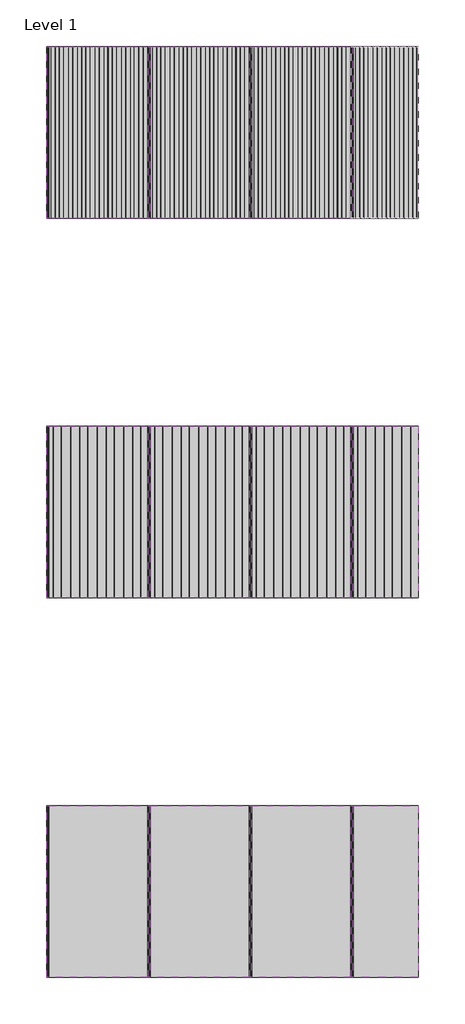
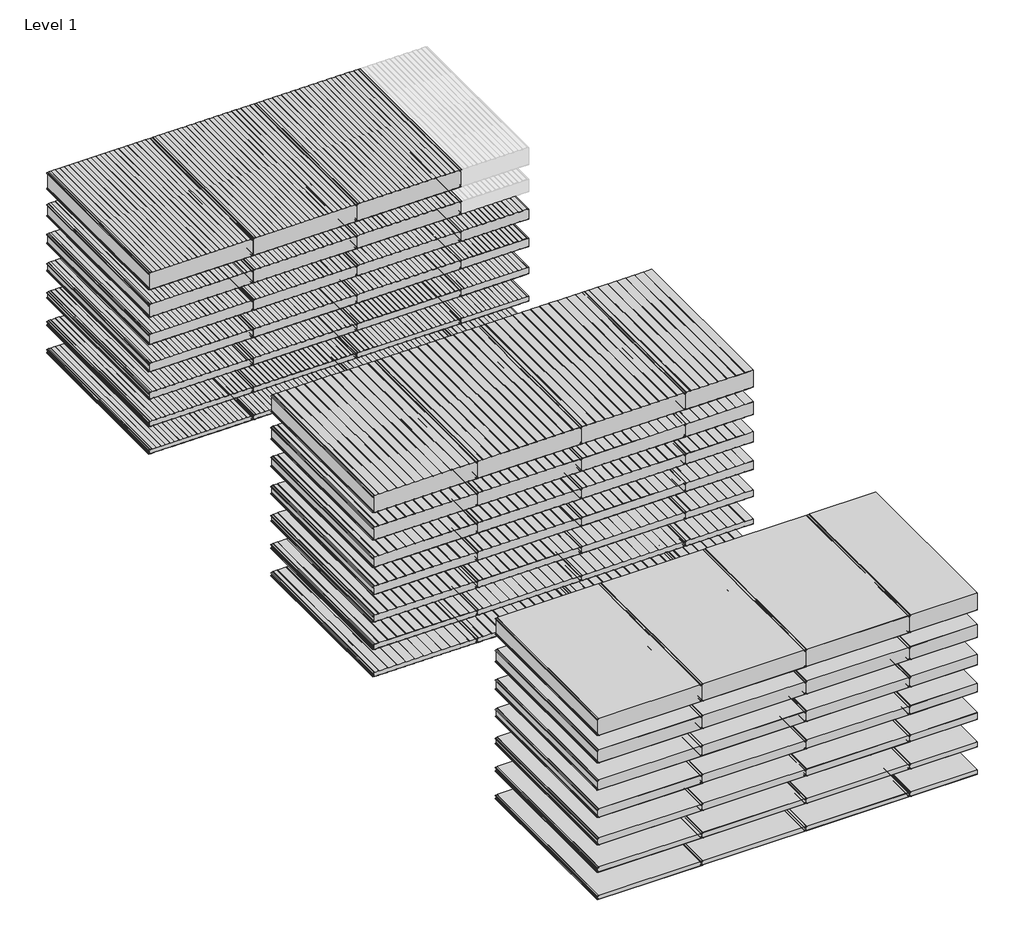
# One storey, part 1 of 4: 82 plates.
"""IFC4 building model written with IfcOpenShell, lengths in millimetres."""

from ifc_helpers import new_model, si_unit, origin, place, context, project, spatial, transform, mapped, element, save
from components import pm1_curtain_panel_standard_profile_92d2c23e, pm1_curtain_panel_standard_profile_dad806f1, pm1_curtain_panel_standard_profile_199faaa9, pm1_curtain_panel_standard_profile_ec20e6b9, pm1_curtain_panel_standard_profile_df60e3fd, pm1_curtain_panel_standard_profile_6e56c0e7, pm1_curtain_panel_standard_profile_73e4d42a, pm1_curtain_panel_standard_profile_d2d6d263, pm1_curtain_panel_standard_profile_0b0c5db0, pm1_curtain_panel_standard_profile_93d1fdce, pm1_curtain_panel_standard_profile_77d0ed2d, pm1_curtain_panel_standard_profile_0c0490de, pm1_curtain_panel_standard_profile_6c952c13, pm1_curtain_panel_standard_profile_5ba5febf, pm1_curtain_panel_standard_profile_4f92d4e1, pm1_curtain_panel_standard_profile_263c61b6, pm1_curtain_panel_standard_profile_bfe30813, pm1_curtain_panel_standard_profile_6d1bee30, pm1_curtain_panel_standard_profile_b1a9f643, pm1_curtain_panel_flat_profile_4c73c2bf, pm1_curtain_panel_flat_profile_43c2f4df, pm1_curtain_panel_flat_profile_60ec96a5, pm1_curtain_panel_flat_profile_449bc577, pm1_curtain_panel_flat_profile_286b1131, pm1_curtain_panel_flat_profile_61f180d3, pm1_curtain_panel_flat_profile_b2dca893, pm1_curtain_panel_flat_profile_1d2014c8, pm1_curtain_panel_flat_profile_ca693aed, pm1_curtain_panel_flat_profile_87bdf2c1, pm1_curtain_panel_flat_profile_b736cf1f, pm1_curtain_panel_flat_profile_28417d67, pm1_curtain_panel_flat_profile_6e2cb82f, pm1_curtain_panel_flat_profile_e4c4468b, pm1_curtain_panel_micro_ribbed_profile_c0fbc9e0, pm1_curtain_panel_micro_ribbed_profile_24b0a13b, pm1_curtain_panel_micro_ribbed_profile_d84f3b6b, pm1_curtain_panel_micro_ribbed_profile_1f1996e2, pm1_curtain_panel_micro_ribbed_profile_37213962, pm1_curtain_panel_micro_ribbed_profile_cd397411, pm1_curtain_panel_micro_ribbed_profile_82cb0394, pm1_curtain_panel_micro_ribbed_profile_46b46948, pm1_curtain_panel_micro_ribbed_profile_8fb5820e, pm1_curtain_panel_micro_ribbed_profile_215b7ad8, pm1_curtain_panel_micro_ribbed_profile_cca0c929, pm1_curtain_panel_micro_ribbed_profile_ab274a87, pm1_curtain_panel_micro_ribbed_profile_490ffd24, pm1_curtain_panel_micro_ribbed_profile_86621088, pm1_curtain_panel_micro_ribbed_profile_fcd02327, pm1_curtain_panel_micro_ribbed_profile_9c3616a6, pm1_curtain_panel_micro_ribbed_profile_b6f5b8fb, pm1_curtain_panel_micro_ribbed_profile_d67f2b87, pm1_curtain_panel_micro_ribbed_profile_3ec6e447, pm1_curtain_panel_micro_ribbed_profile_b6d19df9, pm1_curtain_panel_micro_ribbed_profile_b77677c2

model = new_model("IFC4")

# Units and contexts
model_context = context("Model", 3, world=origin())
ifc_project = project(units=[si_unit("LENGTHUNIT", "METRE", prefix="MILLI")], contexts=[model_context])

# Site, building, storey
site = spatial("IfcSite", under=ifc_project)
building = spatial("IfcBuilding", under=site)
storey = spatial("IfcBuildingStorey", under=building, Name="Level 1", Elevation=0.0)

# Plates
placement = place(None, origin())
pm1_curtain_panel_standard_profile_shape = pm1_curtain_panel_standard_profile_92d2c23e(model_context)
pm1_curtain_panel_standard_profile_2_shape = pm1_curtain_panel_standard_profile_dad806f1(model_context)
element("IfcPlate", 1, ObjectType="PM1_Curtain-Panel_ Standard-profile : ACH_PM1_Acoustic-Sectioning-Panel_50M", at=placement, inside=storey, context=model_context, shape_type="MappedRepresentation", body=[
    mapped(pm1_curtain_panel_standard_profile_shape, transform((-20457.9364012, -419.7144508, 0.0), x_axis=(1.0, 0.0, 0.0), y_axis=(0.0, 0.0, -1.0), z_axis=(0.0, 1.0, 0.0))),
    mapped(pm1_curtain_panel_standard_profile_2_shape, transform((-20457.9364012, -419.7144508, 0.0), x_axis=(1.0, 0.0, 0.0), y_axis=(0.0, 0.0, -1.0), z_axis=(0.0, 1.0, 0.0))),
])
element("IfcPlate", 2, ObjectType="PM1_Curtain-Panel_ Standard-profile : ACH_PM1_Acoustic-Sectioning-Panel_50M", at=placement, inside=storey, context=model_context, shape_type="MappedRepresentation", body=[
    mapped(pm1_curtain_panel_standard_profile_shape, transform((-19307.9364012, -419.7144508, 0.0), x_axis=(1.0, 0.0, 0.0), y_axis=(0.0, 0.0, -1.0), z_axis=(0.0, 1.0, 0.0))),
    mapped(pm1_curtain_panel_standard_profile_2_shape, transform((-19307.9364012, -419.7144508, 0.0), x_axis=(1.0, 0.0, 0.0), y_axis=(0.0, 0.0, -1.0), z_axis=(0.0, 1.0, 0.0))),
])
element("IfcPlate", 3, ObjectType="PM1_Curtain-Panel_ Standard-profile : ACH_PM1_Acoustic-Sectioning-Panel_50M", at=placement, inside=storey, context=model_context, shape_type="MappedRepresentation", body=[
    mapped(pm1_curtain_panel_standard_profile_shape, transform((-18157.9364012, -419.7144508, 0.0), x_axis=(1.0, 0.0, 0.0), y_axis=(0.0, 0.0, -1.0), z_axis=(0.0, 1.0, 0.0))),
    mapped(pm1_curtain_panel_standard_profile_2_shape, transform((-18157.9364012, -419.7144508, 0.0), x_axis=(1.0, 0.0, 0.0), y_axis=(0.0, 0.0, -1.0), z_axis=(0.0, 1.0, 0.0))),
])
pm1_curtain_panel_standard_profile_3_shape = pm1_curtain_panel_standard_profile_199faaa9(model_context)
element("IfcPlate", 4, ObjectType="PM1_Curtain-Panel_ Standard-profile : ACH_PM1_Acoustic-Sectioning-Panel_50M", at=placement, inside=storey, context=model_context, shape_type="MappedRepresentation", body=[
    mapped(pm1_curtain_panel_standard_profile_3_shape, transform((-17207.9244272, -419.7144508, 0.0), x_axis=(1.0, 0.0, 0.0), y_axis=(0.0, 0.0, -1.0), z_axis=(0.0, 1.0, 0.0))),
])
pm1_curtain_panel_standard_profile_4_shape = pm1_curtain_panel_standard_profile_ec20e6b9(model_context)
pm1_curtain_panel_standard_profile_5_shape = pm1_curtain_panel_standard_profile_df60e3fd(model_context)
element("IfcPlate", 5, ObjectType="PM1_Curtain-Panel_ Standard-profile : ACH_PM1_Acoustic-Sectioning-Panel_60M", at=placement, inside=storey, context=model_context, shape_type="MappedRepresentation", body=[
    mapped(pm1_curtain_panel_standard_profile_4_shape, transform((-20457.9364012, -419.7144508, 320.0), x_axis=(1.0, 0.0, 0.0), y_axis=(0.0, 0.0, -1.0), z_axis=(0.0, 1.0, 0.0))),
    mapped(pm1_curtain_panel_standard_profile_5_shape, transform((-20457.9364012, -419.7144508, 320.0), x_axis=(1.0, 0.0, 0.0), y_axis=(0.0, 0.0, -1.0), z_axis=(0.0, 1.0, 0.0))),
])
element("IfcPlate", 6, ObjectType="PM1_Curtain-Panel_ Standard-profile : ACH_PM1_Acoustic-Sectioning-Panel_60M", at=placement, inside=storey, context=model_context, shape_type="MappedRepresentation", body=[
    mapped(pm1_curtain_panel_standard_profile_4_shape, transform((-19307.9364012, -419.7144508, 320.0), x_axis=(1.0, 0.0, 0.0), y_axis=(0.0, 0.0, -1.0), z_axis=(0.0, 1.0, 0.0))),
    mapped(pm1_curtain_panel_standard_profile_5_shape, transform((-19307.9364012, -419.7144508, 320.0), x_axis=(1.0, 0.0, 0.0), y_axis=(0.0, 0.0, -1.0), z_axis=(0.0, 1.0, 0.0))),
])
element("IfcPlate", 7, ObjectType="PM1_Curtain-Panel_ Standard-profile : ACH_PM1_Acoustic-Sectioning-Panel_60M", at=placement, inside=storey, context=model_context, shape_type="MappedRepresentation", body=[
    mapped(pm1_curtain_panel_standard_profile_4_shape, transform((-18157.9364012, -419.7144508, 320.0), x_axis=(1.0, 0.0, 0.0), y_axis=(0.0, 0.0, -1.0), z_axis=(0.0, 1.0, 0.0))),
    mapped(pm1_curtain_panel_standard_profile_5_shape, transform((-18157.9364012, -419.7144508, 320.0), x_axis=(1.0, 0.0, 0.0), y_axis=(0.0, 0.0, -1.0), z_axis=(0.0, 1.0, 0.0))),
])
pm1_curtain_panel_standard_profile_6_shape = pm1_curtain_panel_standard_profile_6e56c0e7(model_context)
element("IfcPlate", 8, ObjectType="PM1_Curtain-Panel_ Standard-profile : ACH_PM1_Acoustic-Sectioning-Panel_60M", at=placement, inside=storey, context=model_context, shape_type="MappedRepresentation", body=[
    mapped(pm1_curtain_panel_standard_profile_6_shape, transform((-17207.9244272, -419.7144508, 320.0), x_axis=(1.0, 0.0, 0.0), y_axis=(0.0, 0.0, -1.0), z_axis=(0.0, 1.0, 0.0))),
])
pm1_curtain_panel_standard_profile_7_shape = pm1_curtain_panel_standard_profile_73e4d42a(model_context)
pm1_curtain_panel_standard_profile_8_shape = pm1_curtain_panel_standard_profile_d2d6d263(model_context)
element("IfcPlate", 9, ObjectType="PM1_Curtain-Panel_ Standard-profile : ACH_PM1_Acoustic-Sectioning-Panel_80M", at=placement, inside=storey, context=model_context, shape_type="MappedRepresentation", body=[
    mapped(pm1_curtain_panel_standard_profile_7_shape, transform((-20457.9364012, -419.7144508, 640.0), x_axis=(1.0, 0.0, 0.0), y_axis=(0.0, 0.0, -1.0), z_axis=(0.0, 1.0, 0.0))),
    mapped(pm1_curtain_panel_standard_profile_8_shape, transform((-20457.9364012, -419.7144508, 640.0), x_axis=(1.0, 0.0, 0.0), y_axis=(0.0, 0.0, -1.0), z_axis=(0.0, 1.0, 0.0))),
])
element("IfcPlate", 10, ObjectType="PM1_Curtain-Panel_ Standard-profile : ACH_PM1_Acoustic-Sectioning-Panel_80M", at=placement, inside=storey, context=model_context, shape_type="MappedRepresentation", body=[
    mapped(pm1_curtain_panel_standard_profile_7_shape, transform((-19307.9364012, -419.7144508, 640.0), x_axis=(1.0, 0.0, 0.0), y_axis=(0.0, 0.0, -1.0), z_axis=(0.0, 1.0, 0.0))),
    mapped(pm1_curtain_panel_standard_profile_8_shape, transform((-19307.9364012, -419.7144508, 640.0), x_axis=(1.0, 0.0, 0.0), y_axis=(0.0, 0.0, -1.0), z_axis=(0.0, 1.0, 0.0))),
])
element("IfcPlate", 11, ObjectType="PM1_Curtain-Panel_ Standard-profile : ACH_PM1_Acoustic-Sectioning-Panel_80M", at=placement, inside=storey, context=model_context, shape_type="MappedRepresentation", body=[
    mapped(pm1_curtain_panel_standard_profile_7_shape, transform((-18157.9364012, -419.7144508, 640.0), x_axis=(1.0, 0.0, 0.0), y_axis=(0.0, 0.0, -1.0), z_axis=(0.0, 1.0, 0.0))),
    mapped(pm1_curtain_panel_standard_profile_8_shape, transform((-18157.9364012, -419.7144508, 640.0), x_axis=(1.0, 0.0, 0.0), y_axis=(0.0, 0.0, -1.0), z_axis=(0.0, 1.0, 0.0))),
])
pm1_curtain_panel_standard_profile_9_shape = pm1_curtain_panel_standard_profile_0b0c5db0(model_context)
element("IfcPlate", 12, ObjectType="PM1_Curtain-Panel_ Standard-profile : ACH_PM1_Acoustic-Sectioning-Panel_80M", at=placement, inside=storey, context=model_context, shape_type="MappedRepresentation", body=[
    mapped(pm1_curtain_panel_standard_profile_9_shape, transform((-17207.9244272, -419.7144508, 640.0), x_axis=(1.0, 0.0, 0.0), y_axis=(0.0, 0.0, -1.0), z_axis=(0.0, 1.0, 0.0))),
])
pm1_curtain_panel_standard_profile_10_shape = pm1_curtain_panel_standard_profile_93d1fdce(model_context)
pm1_curtain_panel_standard_profile_11_shape = pm1_curtain_panel_standard_profile_77d0ed2d(model_context)
element("IfcPlate", 13, ObjectType="PM1_Curtain-Panel_ Standard-profile : ACH_PM1_Acoustic-Sectioning-Panel_100M", at=placement, inside=storey, context=model_context, shape_type="MappedRepresentation", body=[
    mapped(pm1_curtain_panel_standard_profile_10_shape, transform((-20457.9364012, -419.7144508, 960.0), x_axis=(1.0, 0.0, 0.0), y_axis=(0.0, 0.0, -1.0), z_axis=(0.0, 1.0, 0.0))),
    mapped(pm1_curtain_panel_standard_profile_11_shape, transform((-20457.9364012, -419.7144508, 960.0), x_axis=(1.0, 0.0, 0.0), y_axis=(0.0, 0.0, -1.0), z_axis=(0.0, 1.0, 0.0))),
])
element("IfcPlate", 14, ObjectType="PM1_Curtain-Panel_ Standard-profile : ACH_PM1_Acoustic-Sectioning-Panel_100M", at=placement, inside=storey, context=model_context, shape_type="MappedRepresentation", body=[
    mapped(pm1_curtain_panel_standard_profile_10_shape, transform((-19307.9364012, -419.7144508, 960.0), x_axis=(1.0, 0.0, 0.0), y_axis=(0.0, 0.0, -1.0), z_axis=(0.0, 1.0, 0.0))),
    mapped(pm1_curtain_panel_standard_profile_11_shape, transform((-19307.9364012, -419.7144508, 960.0), x_axis=(1.0, 0.0, 0.0), y_axis=(0.0, 0.0, -1.0), z_axis=(0.0, 1.0, 0.0))),
])
element("IfcPlate", 15, ObjectType="PM1_Curtain-Panel_ Standard-profile : ACH_PM1_Acoustic-Sectioning-Panel_100M", at=placement, inside=storey, context=model_context, shape_type="MappedRepresentation", body=[
    mapped(pm1_curtain_panel_standard_profile_10_shape, transform((-18157.9364012, -419.7144508, 960.0), x_axis=(1.0, 0.0, 0.0), y_axis=(0.0, 0.0, -1.0), z_axis=(0.0, 1.0, 0.0))),
    mapped(pm1_curtain_panel_standard_profile_11_shape, transform((-18157.9364012, -419.7144508, 960.0), x_axis=(1.0, 0.0, 0.0), y_axis=(0.0, 0.0, -1.0), z_axis=(0.0, 1.0, 0.0))),
])
pm1_curtain_panel_standard_profile_12_shape = pm1_curtain_panel_standard_profile_0c0490de(model_context)
element("IfcPlate", 16, ObjectType="PM1_Curtain-Panel_ Standard-profile : ACH_PM1_Acoustic-Sectioning-Panel_100M", at=placement, inside=storey, context=model_context, shape_type="MappedRepresentation", body=[
    mapped(pm1_curtain_panel_standard_profile_12_shape, transform((-17207.9244272, -419.7144508, 960.0), x_axis=(1.0, 0.0, 0.0), y_axis=(0.0, 0.0, -1.0), z_axis=(0.0, 1.0, 0.0))),
])
pm1_curtain_panel_standard_profile_13_shape = pm1_curtain_panel_standard_profile_6c952c13(model_context)
pm1_curtain_panel_standard_profile_14_shape = pm1_curtain_panel_standard_profile_5ba5febf(model_context)
element("IfcPlate", 17, ObjectType="PM1_Curtain-Panel_ Standard-profile : ACH_PM1_Acoustic-Sectioning-Panel_120M", at=placement, inside=storey, context=model_context, shape_type="MappedRepresentation", body=[
    mapped(pm1_curtain_panel_standard_profile_13_shape, transform((-20457.9364012, -419.7144508, 1280.0), x_axis=(1.0, 0.0, 0.0), y_axis=(0.0, 0.0, -1.0), z_axis=(0.0, 1.0, 0.0))),
    mapped(pm1_curtain_panel_standard_profile_14_shape, transform((-20457.9364012, -419.7144508, 1280.0), x_axis=(1.0, 0.0, 0.0), y_axis=(0.0, 0.0, -1.0), z_axis=(0.0, 1.0, 0.0))),
])
element("IfcPlate", 18, ObjectType="PM1_Curtain-Panel_ Standard-profile : ACH_PM1_Acoustic-Sectioning-Panel_120M", at=placement, inside=storey, context=model_context, shape_type="MappedRepresentation", body=[
    mapped(pm1_curtain_panel_standard_profile_13_shape, transform((-19307.9364012, -419.7144508, 1280.0), x_axis=(1.0, 0.0, 0.0), y_axis=(0.0, 0.0, -1.0), z_axis=(0.0, 1.0, 0.0))),
    mapped(pm1_curtain_panel_standard_profile_14_shape, transform((-19307.9364012, -419.7144508, 1280.0), x_axis=(1.0, 0.0, 0.0), y_axis=(0.0, 0.0, -1.0), z_axis=(0.0, 1.0, 0.0))),
])
element("IfcPlate", 19, ObjectType="PM1_Curtain-Panel_ Standard-profile : ACH_PM1_Acoustic-Sectioning-Panel_120M", at=placement, inside=storey, context=model_context, shape_type="MappedRepresentation", body=[
    mapped(pm1_curtain_panel_standard_profile_13_shape, transform((-18157.9364012, -419.7144508, 1280.0), x_axis=(1.0, 0.0, 0.0), y_axis=(0.0, 0.0, -1.0), z_axis=(0.0, 1.0, 0.0))),
    mapped(pm1_curtain_panel_standard_profile_14_shape, transform((-18157.9364012, -419.7144508, 1280.0), x_axis=(1.0, 0.0, 0.0), y_axis=(0.0, 0.0, -1.0), z_axis=(0.0, 1.0, 0.0))),
])
pm1_curtain_panel_standard_profile_15_shape = pm1_curtain_panel_standard_profile_4f92d4e1(model_context)
element("IfcPlate", 20, ObjectType="PM1_Curtain-Panel_ Standard-profile : ACH_PM1_Acoustic-Sectioning-Panel_120M", at=placement, inside=storey, context=model_context, shape_type="MappedRepresentation", body=[
    mapped(pm1_curtain_panel_standard_profile_15_shape, transform((-17207.9244272, -419.7144508, 1280.0), x_axis=(1.0, 0.0, 0.0), y_axis=(0.0, 0.0, -1.0), z_axis=(0.0, 1.0, 0.0))),
])
pm1_curtain_panel_standard_profile_16_shape = pm1_curtain_panel_standard_profile_263c61b6(model_context)
pm1_curtain_panel_standard_profile_17_shape = pm1_curtain_panel_standard_profile_bfe30813(model_context)
element("IfcPlate", 21, ObjectType="PM1_Curtain-Panel_ Standard-profile : ACH_PM1_Acoustic-Sectioning-Panel_150M", at=placement, inside=storey, context=model_context, shape_type="MappedRepresentation", body=[
    mapped(pm1_curtain_panel_standard_profile_16_shape, transform((-20457.9364012, -419.7144508, 1600.0), x_axis=(1.0, 0.0, 0.0), y_axis=(0.0, 0.0, -1.0), z_axis=(0.0, 1.0, 0.0))),
    mapped(pm1_curtain_panel_standard_profile_17_shape, transform((-20457.9364012, -419.7144508, 1600.0), x_axis=(1.0, 0.0, 0.0), y_axis=(0.0, 0.0, -1.0), z_axis=(0.0, 1.0, 0.0))),
])
element("IfcPlate", 22, ObjectType="PM1_Curtain-Panel_ Standard-profile : ACH_PM1_Acoustic-Sectioning-Panel_150M", at=placement, inside=storey, context=model_context, shape_type="MappedRepresentation", body=[
    mapped(pm1_curtain_panel_standard_profile_16_shape, transform((-19307.9364012, -419.7144508, 1600.0), x_axis=(1.0, 0.0, 0.0), y_axis=(0.0, 0.0, -1.0), z_axis=(0.0, 1.0, 0.0))),
    mapped(pm1_curtain_panel_standard_profile_17_shape, transform((-19307.9364012, -419.7144508, 1600.0), x_axis=(1.0, 0.0, 0.0), y_axis=(0.0, 0.0, -1.0), z_axis=(0.0, 1.0, 0.0))),
])
element("IfcPlate", 23, ObjectType="PM1_Curtain-Panel_ Standard-profile : ACH_PM1_Acoustic-Sectioning-Panel_150M", at=placement, inside=storey, context=model_context, shape_type="MappedRepresentation", body=[
    mapped(pm1_curtain_panel_standard_profile_16_shape, transform((-18157.9364012, -419.7144508, 1600.0), x_axis=(1.0, 0.0, 0.0), y_axis=(0.0, 0.0, -1.0), z_axis=(0.0, 1.0, 0.0))),
    mapped(pm1_curtain_panel_standard_profile_17_shape, transform((-18157.9364012, -419.7144508, 1600.0), x_axis=(1.0, 0.0, 0.0), y_axis=(0.0, 0.0, -1.0), z_axis=(0.0, 1.0, 0.0))),
])
pm1_curtain_panel_standard_profile_18_shape = pm1_curtain_panel_standard_profile_6d1bee30(model_context)
pm1_curtain_panel_standard_profile_19_shape = pm1_curtain_panel_standard_profile_b1a9f643(model_context)
element("IfcPlate", 24, ObjectType="PM1_Curtain-Panel_ Standard-profile : ACH_PM1_Acoustic-Sectioning-Panel_200M", at=placement, inside=storey, context=model_context, shape_type="MappedRepresentation", body=[
    mapped(pm1_curtain_panel_standard_profile_18_shape, transform((-20457.9364012, -419.7144508, 1920.0), x_axis=(1.0, 0.0, 0.0), y_axis=(0.0, 0.0, -1.0), z_axis=(0.0, 1.0, 0.0))),
    mapped(pm1_curtain_panel_standard_profile_19_shape, transform((-20457.9364012, -419.7144508, 1920.0), x_axis=(1.0, 0.0, 0.0), y_axis=(0.0, 0.0, -1.0), z_axis=(0.0, 1.0, 0.0))),
])
element("IfcPlate", 25, ObjectType="PM1_Curtain-Panel_ Standard-profile : ACH_PM1_Acoustic-Sectioning-Panel_200M", at=placement, inside=storey, context=model_context, shape_type="MappedRepresentation", body=[
    mapped(pm1_curtain_panel_standard_profile_18_shape, transform((-19307.9364012, -419.7144508, 1920.0), x_axis=(1.0, 0.0, 0.0), y_axis=(0.0, 0.0, -1.0), z_axis=(0.0, 1.0, 0.0))),
    mapped(pm1_curtain_panel_standard_profile_19_shape, transform((-19307.9364012, -419.7144508, 1920.0), x_axis=(1.0, 0.0, 0.0), y_axis=(0.0, 0.0, -1.0), z_axis=(0.0, 1.0, 0.0))),
])
element("IfcPlate", 26, ObjectType="PM1_Curtain-Panel_ Standard-profile : ACH_PM1_Acoustic-Sectioning-Panel_200M", at=placement, inside=storey, context=model_context, shape_type="MappedRepresentation", body=[
    mapped(pm1_curtain_panel_standard_profile_18_shape, transform((-18157.9364012, -419.7144508, 1920.0), x_axis=(1.0, 0.0, 0.0), y_axis=(0.0, 0.0, -1.0), z_axis=(0.0, 1.0, 0.0))),
    mapped(pm1_curtain_panel_standard_profile_19_shape, transform((-18157.9364012, -419.7144508, 1920.0), x_axis=(1.0, 0.0, 0.0), y_axis=(0.0, 0.0, -1.0), z_axis=(0.0, 1.0, 0.0))),
])
pm1_curtain_panel_flat_profile_shape = pm1_curtain_panel_flat_profile_4c73c2bf(model_context)
element("IfcPlate", 27, ObjectType="PM1_Curtain-Panel_Flat-profile : ACH_PM1_Acoustic-Sectioning-Panel_50M", at=placement, inside=storey, context=model_context, shape_type="MappedRepresentation", body=[
    mapped(pm1_curtain_panel_flat_profile_shape, transform((-20457.9364012, -9019.7144508, 0.0), x_axis=(1.0, 0.0, 0.0), y_axis=(0.0, 0.0, -1.0), z_axis=(0.0, 1.0, 0.0))),
])
element("IfcPlate", 28, ObjectType="PM1_Curtain-Panel_Flat-profile : ACH_PM1_Acoustic-Sectioning-Panel_50M", at=placement, inside=storey, context=model_context, shape_type="MappedRepresentation", body=[
    mapped(pm1_curtain_panel_flat_profile_shape, transform((-19307.9364012, -9019.7144508, 0.0), x_axis=(1.0, 0.0, 0.0), y_axis=(0.0, 0.0, -1.0), z_axis=(0.0, 1.0, 0.0))),
])
element("IfcPlate", 29, ObjectType="PM1_Curtain-Panel_Flat-profile : ACH_PM1_Acoustic-Sectioning-Panel_50M", at=placement, inside=storey, context=model_context, shape_type="MappedRepresentation", body=[
    mapped(pm1_curtain_panel_flat_profile_shape, transform((-18157.9364012, -9019.7144508, 0.0), x_axis=(1.0, 0.0, 0.0), y_axis=(0.0, 0.0, -1.0), z_axis=(0.0, 1.0, 0.0))),
])
pm1_curtain_panel_flat_profile_2_shape = pm1_curtain_panel_flat_profile_43c2f4df(model_context)
element("IfcPlate", 30, ObjectType="PM1_Curtain-Panel_Flat-profile : ACH_PM1_Acoustic-Sectioning-Panel_50M", at=placement, inside=storey, context=model_context, shape_type="MappedRepresentation", body=[
    mapped(pm1_curtain_panel_flat_profile_2_shape, transform((-17207.9244272, -9019.7144508, 0.0), x_axis=(1.0, 0.0, 0.0), y_axis=(0.0, 0.0, -1.0), z_axis=(0.0, 1.0, 0.0))),
])
pm1_curtain_panel_flat_profile_3_shape = pm1_curtain_panel_flat_profile_60ec96a5(model_context)
element("IfcPlate", 31, ObjectType="PM1_Curtain-Panel_Flat-profile : ACH_PM1_Acoustic-Sectioning-Panel_60M", at=placement, inside=storey, context=model_context, shape_type="MappedRepresentation", body=[
    mapped(pm1_curtain_panel_flat_profile_3_shape, transform((-20457.9364012, -9019.7144508, 320.0), x_axis=(1.0, 0.0, 0.0), y_axis=(0.0, 0.0, -1.0), z_axis=(0.0, 1.0, 0.0))),
])
element("IfcPlate", 32, ObjectType="PM1_Curtain-Panel_Flat-profile : ACH_PM1_Acoustic-Sectioning-Panel_60M", at=placement, inside=storey, context=model_context, shape_type="MappedRepresentation", body=[
    mapped(pm1_curtain_panel_flat_profile_3_shape, transform((-19307.9364012, -9019.7144508, 320.0), x_axis=(1.0, 0.0, 0.0), y_axis=(0.0, 0.0, -1.0), z_axis=(0.0, 1.0, 0.0))),
])
element("IfcPlate", 33, ObjectType="PM1_Curtain-Panel_Flat-profile : ACH_PM1_Acoustic-Sectioning-Panel_60M", at=placement, inside=storey, context=model_context, shape_type="MappedRepresentation", body=[
    mapped(pm1_curtain_panel_flat_profile_3_shape, transform((-18157.9364012, -9019.7144508, 320.0), x_axis=(1.0, 0.0, 0.0), y_axis=(0.0, 0.0, -1.0), z_axis=(0.0, 1.0, 0.0))),
])
pm1_curtain_panel_flat_profile_4_shape = pm1_curtain_panel_flat_profile_449bc577(model_context)
element("IfcPlate", 34, ObjectType="PM1_Curtain-Panel_Flat-profile : ACH_PM1_Acoustic-Sectioning-Panel_60M", at=placement, inside=storey, context=model_context, shape_type="MappedRepresentation", body=[
    mapped(pm1_curtain_panel_flat_profile_4_shape, transform((-17207.9244272, -9019.7144508, 320.0), x_axis=(1.0, 0.0, 0.0), y_axis=(0.0, 0.0, -1.0), z_axis=(0.0, 1.0, 0.0))),
])
pm1_curtain_panel_flat_profile_5_shape = pm1_curtain_panel_flat_profile_286b1131(model_context)
element("IfcPlate", 35, ObjectType="PM1_Curtain-Panel_Flat-profile : ACH_PM1_Acoustic-Sectioning-Panel_80M", at=placement, inside=storey, context=model_context, shape_type="MappedRepresentation", body=[
    mapped(pm1_curtain_panel_flat_profile_5_shape, transform((-20457.9364012, -9019.7144508, 640.0), x_axis=(1.0, 0.0, 0.0), y_axis=(0.0, 0.0, -1.0), z_axis=(0.0, 1.0, 0.0))),
])
element("IfcPlate", 36, ObjectType="PM1_Curtain-Panel_Flat-profile : ACH_PM1_Acoustic-Sectioning-Panel_80M", at=placement, inside=storey, context=model_context, shape_type="MappedRepresentation", body=[
    mapped(pm1_curtain_panel_flat_profile_5_shape, transform((-19307.9364012, -9019.7144508, 640.0), x_axis=(1.0, 0.0, 0.0), y_axis=(0.0, 0.0, -1.0), z_axis=(0.0, 1.0, 0.0))),
])
element("IfcPlate", 37, ObjectType="PM1_Curtain-Panel_Flat-profile : ACH_PM1_Acoustic-Sectioning-Panel_80M", at=placement, inside=storey, context=model_context, shape_type="MappedRepresentation", body=[
    mapped(pm1_curtain_panel_flat_profile_5_shape, transform((-18157.9364012, -9019.7144508, 640.0), x_axis=(1.0, 0.0, 0.0), y_axis=(0.0, 0.0, -1.0), z_axis=(0.0, 1.0, 0.0))),
])
pm1_curtain_panel_flat_profile_6_shape = pm1_curtain_panel_flat_profile_61f180d3(model_context)
element("IfcPlate", 38, ObjectType="PM1_Curtain-Panel_Flat-profile : ACH_PM1_Acoustic-Sectioning-Panel_80M", at=placement, inside=storey, context=model_context, shape_type="MappedRepresentation", body=[
    mapped(pm1_curtain_panel_flat_profile_6_shape, transform((-17207.9244272, -9019.7144508, 640.0), x_axis=(1.0, 0.0, 0.0), y_axis=(0.0, 0.0, -1.0), z_axis=(0.0, 1.0, 0.0))),
])
pm1_curtain_panel_flat_profile_7_shape = pm1_curtain_panel_flat_profile_b2dca893(model_context)
element("IfcPlate", 39, ObjectType="PM1_Curtain-Panel_Flat-profile : ACH_PM1_Acoustic-Sectioning-Panel_100M", at=placement, inside=storey, context=model_context, shape_type="MappedRepresentation", body=[
    mapped(pm1_curtain_panel_flat_profile_7_shape, transform((-20457.9364012, -9019.7144508, 960.0), x_axis=(1.0, 0.0, 0.0), y_axis=(0.0, 0.0, -1.0), z_axis=(0.0, 1.0, 0.0))),
])
element("IfcPlate", 40, ObjectType="PM1_Curtain-Panel_Flat-profile : ACH_PM1_Acoustic-Sectioning-Panel_100M", at=placement, inside=storey, context=model_context, shape_type="MappedRepresentation", body=[
    mapped(pm1_curtain_panel_flat_profile_7_shape, transform((-19307.9364012, -9019.7144508, 960.0), x_axis=(1.0, 0.0, 0.0), y_axis=(0.0, 0.0, -1.0), z_axis=(0.0, 1.0, 0.0))),
])
element("IfcPlate", 41, ObjectType="PM1_Curtain-Panel_Flat-profile : ACH_PM1_Acoustic-Sectioning-Panel_100M", at=placement, inside=storey, context=model_context, shape_type="MappedRepresentation", body=[
    mapped(pm1_curtain_panel_flat_profile_7_shape, transform((-18157.9364012, -9019.7144508, 960.0), x_axis=(1.0, 0.0, 0.0), y_axis=(0.0, 0.0, -1.0), z_axis=(0.0, 1.0, 0.0))),
])
pm1_curtain_panel_flat_profile_8_shape = pm1_curtain_panel_flat_profile_1d2014c8(model_context)
element("IfcPlate", 42, ObjectType="PM1_Curtain-Panel_Flat-profile : ACH_PM1_Acoustic-Sectioning-Panel_100M", at=placement, inside=storey, context=model_context, shape_type="MappedRepresentation", body=[
    mapped(pm1_curtain_panel_flat_profile_8_shape, transform((-17207.9244272, -9019.7144508, 960.0), x_axis=(1.0, 0.0, 0.0), y_axis=(0.0, 0.0, -1.0), z_axis=(0.0, 1.0, 0.0))),
])
pm1_curtain_panel_flat_profile_9_shape = pm1_curtain_panel_flat_profile_ca693aed(model_context)
element("IfcPlate", 43, ObjectType="PM1_Curtain-Panel_Flat-profile : ACH_PM1_Acoustic-Sectioning-Panel_120M", at=placement, inside=storey, context=model_context, shape_type="MappedRepresentation", body=[
    mapped(pm1_curtain_panel_flat_profile_9_shape, transform((-20457.9364012, -9019.7144508, 1280.0), x_axis=(1.0, 0.0, 0.0), y_axis=(0.0, 0.0, -1.0), z_axis=(0.0, 1.0, 0.0))),
])
element("IfcPlate", 44, ObjectType="PM1_Curtain-Panel_Flat-profile : ACH_PM1_Acoustic-Sectioning-Panel_120M", at=placement, inside=storey, context=model_context, shape_type="MappedRepresentation", body=[
    mapped(pm1_curtain_panel_flat_profile_9_shape, transform((-19307.9364012, -9019.7144508, 1280.0), x_axis=(1.0, 0.0, 0.0), y_axis=(0.0, 0.0, -1.0), z_axis=(0.0, 1.0, 0.0))),
])
element("IfcPlate", 45, ObjectType="PM1_Curtain-Panel_Flat-profile : ACH_PM1_Acoustic-Sectioning-Panel_120M", at=placement, inside=storey, context=model_context, shape_type="MappedRepresentation", body=[
    mapped(pm1_curtain_panel_flat_profile_9_shape, transform((-18157.9364012, -9019.7144508, 1280.0), x_axis=(1.0, 0.0, 0.0), y_axis=(0.0, 0.0, -1.0), z_axis=(0.0, 1.0, 0.0))),
])
pm1_curtain_panel_flat_profile_10_shape = pm1_curtain_panel_flat_profile_87bdf2c1(model_context)
element("IfcPlate", 46, ObjectType="PM1_Curtain-Panel_Flat-profile : ACH_PM1_Acoustic-Sectioning-Panel_120M", at=placement, inside=storey, context=model_context, shape_type="MappedRepresentation", body=[
    mapped(pm1_curtain_panel_flat_profile_10_shape, transform((-17207.9244272, -9019.7144508, 1280.0), x_axis=(1.0, 0.0, 0.0), y_axis=(0.0, 0.0, -1.0), z_axis=(0.0, 1.0, 0.0))),
])
pm1_curtain_panel_flat_profile_11_shape = pm1_curtain_panel_flat_profile_b736cf1f(model_context)
element("IfcPlate", 47, ObjectType="PM1_Curtain-Panel_Flat-profile : ACH_PM1_Acoustic-Sectioning-Panel_150M", at=placement, inside=storey, context=model_context, shape_type="MappedRepresentation", body=[
    mapped(pm1_curtain_panel_flat_profile_11_shape, transform((-20457.9364012, -9019.7144508, 1600.0), x_axis=(1.0, 0.0, 0.0), y_axis=(0.0, 0.0, -1.0), z_axis=(0.0, 1.0, 0.0))),
])
element("IfcPlate", 48, ObjectType="PM1_Curtain-Panel_Flat-profile : ACH_PM1_Acoustic-Sectioning-Panel_150M", at=placement, inside=storey, context=model_context, shape_type="MappedRepresentation", body=[
    mapped(pm1_curtain_panel_flat_profile_11_shape, transform((-19307.9364012, -9019.7144508, 1600.0), x_axis=(1.0, 0.0, 0.0), y_axis=(0.0, 0.0, -1.0), z_axis=(0.0, 1.0, 0.0))),
])
element("IfcPlate", 49, ObjectType="PM1_Curtain-Panel_Flat-profile : ACH_PM1_Acoustic-Sectioning-Panel_150M", at=placement, inside=storey, context=model_context, shape_type="MappedRepresentation", body=[
    mapped(pm1_curtain_panel_flat_profile_11_shape, transform((-18157.9364012, -9019.7144508, 1600.0), x_axis=(1.0, 0.0, 0.0), y_axis=(0.0, 0.0, -1.0), z_axis=(0.0, 1.0, 0.0))),
])
pm1_curtain_panel_flat_profile_12_shape = pm1_curtain_panel_flat_profile_28417d67(model_context)
element("IfcPlate", 50, ObjectType="PM1_Curtain-Panel_Flat-profile : ACH_PM1_Acoustic-Sectioning-Panel_150M", at=placement, inside=storey, context=model_context, shape_type="MappedRepresentation", body=[
    mapped(pm1_curtain_panel_flat_profile_12_shape, transform((-17207.9244272, -9019.7144508, 1600.0), x_axis=(1.0, 0.0, 0.0), y_axis=(0.0, 0.0, -1.0), z_axis=(0.0, 1.0, 0.0))),
])
pm1_curtain_panel_flat_profile_13_shape = pm1_curtain_panel_flat_profile_6e2cb82f(model_context)
element("IfcPlate", 51, ObjectType="PM1_Curtain-Panel_Flat-profile : ACH_PM1_Acoustic-Sectioning-Panel_200M", at=placement, inside=storey, context=model_context, shape_type="MappedRepresentation", body=[
    mapped(pm1_curtain_panel_flat_profile_13_shape, transform((-20457.9364012, -9019.7144508, 1920.0), x_axis=(1.0, 0.0, 0.0), y_axis=(0.0, 0.0, -1.0), z_axis=(0.0, 1.0, 0.0))),
])
element("IfcPlate", 52, ObjectType="PM1_Curtain-Panel_Flat-profile : ACH_PM1_Acoustic-Sectioning-Panel_200M", at=placement, inside=storey, context=model_context, shape_type="MappedRepresentation", body=[
    mapped(pm1_curtain_panel_flat_profile_13_shape, transform((-19307.9364012, -9019.7144508, 1920.0), x_axis=(1.0, 0.0, 0.0), y_axis=(0.0, 0.0, -1.0), z_axis=(0.0, 1.0, 0.0))),
])
element("IfcPlate", 53, ObjectType="PM1_Curtain-Panel_Flat-profile : ACH_PM1_Acoustic-Sectioning-Panel_200M", at=placement, inside=storey, context=model_context, shape_type="MappedRepresentation", body=[
    mapped(pm1_curtain_panel_flat_profile_13_shape, transform((-18157.9364012, -9019.7144508, 1920.0), x_axis=(1.0, 0.0, 0.0), y_axis=(0.0, 0.0, -1.0), z_axis=(0.0, 1.0, 0.0))),
])
pm1_curtain_panel_flat_profile_14_shape = pm1_curtain_panel_flat_profile_e4c4468b(model_context)
element("IfcPlate", 54, ObjectType="PM1_Curtain-Panel_Flat-profile : ACH_PM1_Acoustic-Sectioning-Panel_200M", at=placement, inside=storey, context=model_context, shape_type="MappedRepresentation", body=[
    mapped(pm1_curtain_panel_flat_profile_14_shape, transform((-17207.9244272, -9019.7144508, 1920.0), x_axis=(1.0, 0.0, 0.0), y_axis=(0.0, 0.0, -1.0), z_axis=(0.0, 1.0, 0.0))),
])
pm1_curtain_panel_micro_ribbed_profile_shape = pm1_curtain_panel_micro_ribbed_profile_c0fbc9e0(model_context)
pm1_curtain_panel_micro_ribbed_profile_2_shape = pm1_curtain_panel_micro_ribbed_profile_24b0a13b(model_context)
element("IfcPlate", 55, ObjectType="PM1_Curtain-Panel_Micro-ribbed-profile : ACH_PM1_Acoustic-Sectioning-Panel_50M", at=placement, inside=storey, context=model_context, shape_type="MappedRepresentation", body=[
    mapped(pm1_curtain_panel_micro_ribbed_profile_shape, transform((-20457.9364012, -4719.7144508, 0.0), x_axis=(1.0, 0.0, 0.0), y_axis=(0.0, 0.0, -1.0), z_axis=(0.0, 1.0, 0.0))),
    mapped(pm1_curtain_panel_micro_ribbed_profile_2_shape, transform((-20457.9364012, -4719.7144508, 0.0), x_axis=(1.0, 0.0, 0.0), y_axis=(0.0, 0.0, -1.0), z_axis=(0.0, 1.0, 0.0))),
])
element("IfcPlate", 56, ObjectType="PM1_Curtain-Panel_Micro-ribbed-profile : ACH_PM1_Acoustic-Sectioning-Panel_50M", at=placement, inside=storey, context=model_context, shape_type="MappedRepresentation", body=[
    mapped(pm1_curtain_panel_micro_ribbed_profile_shape, transform((-19307.9364012, -4719.7144508, 0.0), x_axis=(1.0, 0.0, 0.0), y_axis=(0.0, 0.0, -1.0), z_axis=(0.0, 1.0, 0.0))),
    mapped(pm1_curtain_panel_micro_ribbed_profile_2_shape, transform((-19307.9364012, -4719.7144508, 0.0), x_axis=(1.0, 0.0, 0.0), y_axis=(0.0, 0.0, -1.0), z_axis=(0.0, 1.0, 0.0))),
])
element("IfcPlate", 57, ObjectType="PM1_Curtain-Panel_Micro-ribbed-profile : ACH_PM1_Acoustic-Sectioning-Panel_50M", at=placement, inside=storey, context=model_context, shape_type="MappedRepresentation", body=[
    mapped(pm1_curtain_panel_micro_ribbed_profile_shape, transform((-18157.9364012, -4719.7144508, 0.0), x_axis=(1.0, 0.0, 0.0), y_axis=(0.0, 0.0, -1.0), z_axis=(0.0, 1.0, 0.0))),
    mapped(pm1_curtain_panel_micro_ribbed_profile_2_shape, transform((-18157.9364012, -4719.7144508, 0.0), x_axis=(1.0, 0.0, 0.0), y_axis=(0.0, 0.0, -1.0), z_axis=(0.0, 1.0, 0.0))),
])
pm1_curtain_panel_micro_ribbed_profile_3_shape = pm1_curtain_panel_micro_ribbed_profile_d84f3b6b(model_context)
element("IfcPlate", 58, ObjectType="PM1_Curtain-Panel_Micro-ribbed-profile : ACH_PM1_Acoustic-Sectioning-Panel_50M", at=placement, inside=storey, context=model_context, shape_type="MappedRepresentation", body=[
    mapped(pm1_curtain_panel_micro_ribbed_profile_3_shape, transform((-17207.9244272, -4719.7144508, 0.0), x_axis=(1.0, 0.0, 0.0), y_axis=(0.0, 0.0, -1.0), z_axis=(0.0, 1.0, 0.0))),
])
pm1_curtain_panel_micro_ribbed_profile_4_shape = pm1_curtain_panel_micro_ribbed_profile_1f1996e2(model_context)
pm1_curtain_panel_micro_ribbed_profile_5_shape = pm1_curtain_panel_micro_ribbed_profile_37213962(model_context)
element("IfcPlate", 59, ObjectType="PM1_Curtain-Panel_Micro-ribbed-profile : ACH_PM1_Acoustic-Sectioning-Panel_60M", at=placement, inside=storey, context=model_context, shape_type="MappedRepresentation", body=[
    mapped(pm1_curtain_panel_micro_ribbed_profile_4_shape, transform((-20457.9364012, -4719.7144508, 320.0), x_axis=(1.0, 0.0, 0.0), y_axis=(0.0, 0.0, -1.0), z_axis=(0.0, 1.0, 0.0))),
    mapped(pm1_curtain_panel_micro_ribbed_profile_5_shape, transform((-20457.9364012, -4719.7144508, 320.0), x_axis=(1.0, 0.0, 0.0), y_axis=(0.0, 0.0, -1.0), z_axis=(0.0, 1.0, 0.0))),
])
element("IfcPlate", 60, ObjectType="PM1_Curtain-Panel_Micro-ribbed-profile : ACH_PM1_Acoustic-Sectioning-Panel_60M", at=placement, inside=storey, context=model_context, shape_type="MappedRepresentation", body=[
    mapped(pm1_curtain_panel_micro_ribbed_profile_4_shape, transform((-19307.9364012, -4719.7144508, 320.0), x_axis=(1.0, 0.0, 0.0), y_axis=(0.0, 0.0, -1.0), z_axis=(0.0, 1.0, 0.0))),
    mapped(pm1_curtain_panel_micro_ribbed_profile_5_shape, transform((-19307.9364012, -4719.7144508, 320.0), x_axis=(1.0, 0.0, 0.0), y_axis=(0.0, 0.0, -1.0), z_axis=(0.0, 1.0, 0.0))),
])
element("IfcPlate", 61, ObjectType="PM1_Curtain-Panel_Micro-ribbed-profile : ACH_PM1_Acoustic-Sectioning-Panel_60M", at=placement, inside=storey, context=model_context, shape_type="MappedRepresentation", body=[
    mapped(pm1_curtain_panel_micro_ribbed_profile_4_shape, transform((-18157.9364012, -4719.7144508, 320.0), x_axis=(1.0, 0.0, 0.0), y_axis=(0.0, 0.0, -1.0), z_axis=(0.0, 1.0, 0.0))),
    mapped(pm1_curtain_panel_micro_ribbed_profile_5_shape, transform((-18157.9364012, -4719.7144508, 320.0), x_axis=(1.0, 0.0, 0.0), y_axis=(0.0, 0.0, -1.0), z_axis=(0.0, 1.0, 0.0))),
])
pm1_curtain_panel_micro_ribbed_profile_6_shape = pm1_curtain_panel_micro_ribbed_profile_cd397411(model_context)
element("IfcPlate", 62, ObjectType="PM1_Curtain-Panel_Micro-ribbed-profile : ACH_PM1_Acoustic-Sectioning-Panel_60M", at=placement, inside=storey, context=model_context, shape_type="MappedRepresentation", body=[
    mapped(pm1_curtain_panel_micro_ribbed_profile_6_shape, transform((-17207.9244272, -4719.7144508, 320.0), x_axis=(1.0, 0.0, 0.0), y_axis=(0.0, 0.0, -1.0), z_axis=(0.0, 1.0, 0.0))),
])
pm1_curtain_panel_micro_ribbed_profile_7_shape = pm1_curtain_panel_micro_ribbed_profile_82cb0394(model_context)
pm1_curtain_panel_micro_ribbed_profile_8_shape = pm1_curtain_panel_micro_ribbed_profile_46b46948(model_context)
element("IfcPlate", 63, ObjectType="PM1_Curtain-Panel_Micro-ribbed-profile : ACH_PM1_Acoustic-Sectioning-Panel_80M", at=placement, inside=storey, context=model_context, shape_type="MappedRepresentation", body=[
    mapped(pm1_curtain_panel_micro_ribbed_profile_7_shape, transform((-20457.9364012, -4719.7144508, 640.0), x_axis=(1.0, 0.0, 0.0), y_axis=(0.0, 0.0, -1.0), z_axis=(0.0, 1.0, 0.0))),
    mapped(pm1_curtain_panel_micro_ribbed_profile_8_shape, transform((-20457.9364012, -4719.7144508, 640.0), x_axis=(1.0, 0.0, 0.0), y_axis=(0.0, 0.0, -1.0), z_axis=(0.0, 1.0, 0.0))),
])
element("IfcPlate", 64, ObjectType="PM1_Curtain-Panel_Micro-ribbed-profile : ACH_PM1_Acoustic-Sectioning-Panel_80M", at=placement, inside=storey, context=model_context, shape_type="MappedRepresentation", body=[
    mapped(pm1_curtain_panel_micro_ribbed_profile_7_shape, transform((-19307.9364012, -4719.7144508, 640.0), x_axis=(1.0, 0.0, 0.0), y_axis=(0.0, 0.0, -1.0), z_axis=(0.0, 1.0, 0.0))),
    mapped(pm1_curtain_panel_micro_ribbed_profile_8_shape, transform((-19307.9364012, -4719.7144508, 640.0), x_axis=(1.0, 0.0, 0.0), y_axis=(0.0, 0.0, -1.0), z_axis=(0.0, 1.0, 0.0))),
])
element("IfcPlate", 65, ObjectType="PM1_Curtain-Panel_Micro-ribbed-profile : ACH_PM1_Acoustic-Sectioning-Panel_80M", at=placement, inside=storey, context=model_context, shape_type="MappedRepresentation", body=[
    mapped(pm1_curtain_panel_micro_ribbed_profile_7_shape, transform((-18157.9364012, -4719.7144508, 640.0), x_axis=(1.0, 0.0, 0.0), y_axis=(0.0, 0.0, -1.0), z_axis=(0.0, 1.0, 0.0))),
    mapped(pm1_curtain_panel_micro_ribbed_profile_8_shape, transform((-18157.9364012, -4719.7144508, 640.0), x_axis=(1.0, 0.0, 0.0), y_axis=(0.0, 0.0, -1.0), z_axis=(0.0, 1.0, 0.0))),
])
pm1_curtain_panel_micro_ribbed_profile_9_shape = pm1_curtain_panel_micro_ribbed_profile_8fb5820e(model_context)
element("IfcPlate", 66, ObjectType="PM1_Curtain-Panel_Micro-ribbed-profile : ACH_PM1_Acoustic-Sectioning-Panel_80M", at=placement, inside=storey, context=model_context, shape_type="MappedRepresentation", body=[
    mapped(pm1_curtain_panel_micro_ribbed_profile_9_shape, transform((-17207.9244272, -4719.7144508, 640.0), x_axis=(1.0, 0.0, 0.0), y_axis=(0.0, 0.0, -1.0), z_axis=(0.0, 1.0, 0.0))),
])
pm1_curtain_panel_micro_ribbed_profile_10_shape = pm1_curtain_panel_micro_ribbed_profile_215b7ad8(model_context)
pm1_curtain_panel_micro_ribbed_profile_11_shape = pm1_curtain_panel_micro_ribbed_profile_cca0c929(model_context)
element("IfcPlate", 67, ObjectType="PM1_Curtain-Panel_Micro-ribbed-profile : ACH_PM1_Acoustic-Sectioning-Panel_100M", at=placement, inside=storey, context=model_context, shape_type="MappedRepresentation", body=[
    mapped(pm1_curtain_panel_micro_ribbed_profile_10_shape, transform((-20457.9364012, -4719.7144508, 960.0), x_axis=(1.0, 0.0, 0.0), y_axis=(0.0, 0.0, -1.0), z_axis=(0.0, 1.0, 0.0))),
    mapped(pm1_curtain_panel_micro_ribbed_profile_11_shape, transform((-20457.9364012, -4719.7144508, 960.0), x_axis=(1.0, 0.0, 0.0), y_axis=(0.0, 0.0, -1.0), z_axis=(0.0, 1.0, 0.0))),
])
element("IfcPlate", 68, ObjectType="PM1_Curtain-Panel_Micro-ribbed-profile : ACH_PM1_Acoustic-Sectioning-Panel_100M", at=placement, inside=storey, context=model_context, shape_type="MappedRepresentation", body=[
    mapped(pm1_curtain_panel_micro_ribbed_profile_10_shape, transform((-19307.9364012, -4719.7144508, 960.0), x_axis=(1.0, 0.0, 0.0), y_axis=(0.0, 0.0, -1.0), z_axis=(0.0, 1.0, 0.0))),
    mapped(pm1_curtain_panel_micro_ribbed_profile_11_shape, transform((-19307.9364012, -4719.7144508, 960.0), x_axis=(1.0, 0.0, 0.0), y_axis=(0.0, 0.0, -1.0), z_axis=(0.0, 1.0, 0.0))),
])
element("IfcPlate", 69, ObjectType="PM1_Curtain-Panel_Micro-ribbed-profile : ACH_PM1_Acoustic-Sectioning-Panel_100M", at=placement, inside=storey, context=model_context, shape_type="MappedRepresentation", body=[
    mapped(pm1_curtain_panel_micro_ribbed_profile_10_shape, transform((-18157.9364012, -4719.7144508, 960.0), x_axis=(1.0, 0.0, 0.0), y_axis=(0.0, 0.0, -1.0), z_axis=(0.0, 1.0, 0.0))),
    mapped(pm1_curtain_panel_micro_ribbed_profile_11_shape, transform((-18157.9364012, -4719.7144508, 960.0), x_axis=(1.0, 0.0, 0.0), y_axis=(0.0, 0.0, -1.0), z_axis=(0.0, 1.0, 0.0))),
])
pm1_curtain_panel_micro_ribbed_profile_12_shape = pm1_curtain_panel_micro_ribbed_profile_ab274a87(model_context)
element("IfcPlate", 70, ObjectType="PM1_Curtain-Panel_Micro-ribbed-profile : ACH_PM1_Acoustic-Sectioning-Panel_100M", at=placement, inside=storey, context=model_context, shape_type="MappedRepresentation", body=[
    mapped(pm1_curtain_panel_micro_ribbed_profile_12_shape, transform((-17207.9244272, -4719.7144508, 960.0), x_axis=(1.0, 0.0, 0.0), y_axis=(0.0, 0.0, -1.0), z_axis=(0.0, 1.0, 0.0))),
])
pm1_curtain_panel_micro_ribbed_profile_13_shape = pm1_curtain_panel_micro_ribbed_profile_490ffd24(model_context)
pm1_curtain_panel_micro_ribbed_profile_14_shape = pm1_curtain_panel_micro_ribbed_profile_86621088(model_context)
element("IfcPlate", 71, ObjectType="PM1_Curtain-Panel_Micro-ribbed-profile : ACH_PM1_Acoustic-Sectioning-Panel_120M", at=placement, inside=storey, context=model_context, shape_type="MappedRepresentation", body=[
    mapped(pm1_curtain_panel_micro_ribbed_profile_13_shape, transform((-20457.9364012, -4719.7144508, 1280.0), x_axis=(1.0, 0.0, 0.0), y_axis=(0.0, 0.0, -1.0), z_axis=(0.0, 1.0, 0.0))),
    mapped(pm1_curtain_panel_micro_ribbed_profile_14_shape, transform((-20457.9364012, -4719.7144508, 1280.0), x_axis=(1.0, 0.0, 0.0), y_axis=(0.0, 0.0, -1.0), z_axis=(0.0, 1.0, 0.0))),
])
element("IfcPlate", 72, ObjectType="PM1_Curtain-Panel_Micro-ribbed-profile : ACH_PM1_Acoustic-Sectioning-Panel_120M", at=placement, inside=storey, context=model_context, shape_type="MappedRepresentation", body=[
    mapped(pm1_curtain_panel_micro_ribbed_profile_13_shape, transform((-19307.9364012, -4719.7144508, 1280.0), x_axis=(1.0, 0.0, 0.0), y_axis=(0.0, 0.0, -1.0), z_axis=(0.0, 1.0, 0.0))),
    mapped(pm1_curtain_panel_micro_ribbed_profile_14_shape, transform((-19307.9364012, -4719.7144508, 1280.0), x_axis=(1.0, 0.0, 0.0), y_axis=(0.0, 0.0, -1.0), z_axis=(0.0, 1.0, 0.0))),
])
element("IfcPlate", 73, ObjectType="PM1_Curtain-Panel_Micro-ribbed-profile : ACH_PM1_Acoustic-Sectioning-Panel_120M", at=placement, inside=storey, context=model_context, shape_type="MappedRepresentation", body=[
    mapped(pm1_curtain_panel_micro_ribbed_profile_13_shape, transform((-18157.9364012, -4719.7144508, 1280.0), x_axis=(1.0, 0.0, 0.0), y_axis=(0.0, 0.0, -1.0), z_axis=(0.0, 1.0, 0.0))),
    mapped(pm1_curtain_panel_micro_ribbed_profile_14_shape, transform((-18157.9364012, -4719.7144508, 1280.0), x_axis=(1.0, 0.0, 0.0), y_axis=(0.0, 0.0, -1.0), z_axis=(0.0, 1.0, 0.0))),
])
pm1_curtain_panel_micro_ribbed_profile_15_shape = pm1_curtain_panel_micro_ribbed_profile_fcd02327(model_context)
element("IfcPlate", 74, ObjectType="PM1_Curtain-Panel_Micro-ribbed-profile : ACH_PM1_Acoustic-Sectioning-Panel_120M", at=placement, inside=storey, context=model_context, shape_type="MappedRepresentation", body=[
    mapped(pm1_curtain_panel_micro_ribbed_profile_15_shape, transform((-17207.9244272, -4719.7144508, 1280.0), x_axis=(1.0, 0.0, 0.0), y_axis=(0.0, 0.0, -1.0), z_axis=(0.0, 1.0, 0.0))),
])
pm1_curtain_panel_micro_ribbed_profile_16_shape = pm1_curtain_panel_micro_ribbed_profile_9c3616a6(model_context)
pm1_curtain_panel_micro_ribbed_profile_17_shape = pm1_curtain_panel_micro_ribbed_profile_b6f5b8fb(model_context)
element("IfcPlate", 75, ObjectType="PM1_Curtain-Panel_Micro-ribbed-profile : ACH_PM1_Acoustic-Sectioning-Panel_150M", at=placement, inside=storey, context=model_context, shape_type="MappedRepresentation", body=[
    mapped(pm1_curtain_panel_micro_ribbed_profile_16_shape, transform((-20457.9364012, -4719.7144508, 1600.0), x_axis=(1.0, 0.0, 0.0), y_axis=(0.0, 0.0, -1.0), z_axis=(0.0, 1.0, 0.0))),
    mapped(pm1_curtain_panel_micro_ribbed_profile_17_shape, transform((-20457.9364012, -4719.7144508, 1600.0), x_axis=(1.0, 0.0, 0.0), y_axis=(0.0, 0.0, -1.0), z_axis=(0.0, 1.0, 0.0))),
])
element("IfcPlate", 76, ObjectType="PM1_Curtain-Panel_Micro-ribbed-profile : ACH_PM1_Acoustic-Sectioning-Panel_150M", at=placement, inside=storey, context=model_context, shape_type="MappedRepresentation", body=[
    mapped(pm1_curtain_panel_micro_ribbed_profile_16_shape, transform((-19307.9364012, -4719.7144508, 1600.0), x_axis=(1.0, 0.0, 0.0), y_axis=(0.0, 0.0, -1.0), z_axis=(0.0, 1.0, 0.0))),
    mapped(pm1_curtain_panel_micro_ribbed_profile_17_shape, transform((-19307.9364012, -4719.7144508, 1600.0), x_axis=(1.0, 0.0, 0.0), y_axis=(0.0, 0.0, -1.0), z_axis=(0.0, 1.0, 0.0))),
])
element("IfcPlate", 77, ObjectType="PM1_Curtain-Panel_Micro-ribbed-profile : ACH_PM1_Acoustic-Sectioning-Panel_150M", at=placement, inside=storey, context=model_context, shape_type="MappedRepresentation", body=[
    mapped(pm1_curtain_panel_micro_ribbed_profile_16_shape, transform((-18157.9364012, -4719.7144508, 1600.0), x_axis=(1.0, 0.0, 0.0), y_axis=(0.0, 0.0, -1.0), z_axis=(0.0, 1.0, 0.0))),
    mapped(pm1_curtain_panel_micro_ribbed_profile_17_shape, transform((-18157.9364012, -4719.7144508, 1600.0), x_axis=(1.0, 0.0, 0.0), y_axis=(0.0, 0.0, -1.0), z_axis=(0.0, 1.0, 0.0))),
])
pm1_curtain_panel_micro_ribbed_profile_18_shape = pm1_curtain_panel_micro_ribbed_profile_d67f2b87(model_context)
element("IfcPlate", 78, ObjectType="PM1_Curtain-Panel_Micro-ribbed-profile : ACH_PM1_Acoustic-Sectioning-Panel_150M", at=placement, inside=storey, context=model_context, shape_type="MappedRepresentation", body=[
    mapped(pm1_curtain_panel_micro_ribbed_profile_18_shape, transform((-17207.9244272, -4719.7144508, 1600.0), x_axis=(1.0, 0.0, 0.0), y_axis=(0.0, 0.0, -1.0), z_axis=(0.0, 1.0, 0.0))),
])
pm1_curtain_panel_micro_ribbed_profile_19_shape = pm1_curtain_panel_micro_ribbed_profile_3ec6e447(model_context)
pm1_curtain_panel_micro_ribbed_profile_20_shape = pm1_curtain_panel_micro_ribbed_profile_b6d19df9(model_context)
element("IfcPlate", 79, ObjectType="PM1_Curtain-Panel_Micro-ribbed-profile : ACH_PM1_Acoustic-Sectioning-Panel_200M", at=placement, inside=storey, context=model_context, shape_type="MappedRepresentation", body=[
    mapped(pm1_curtain_panel_micro_ribbed_profile_19_shape, transform((-20457.9364012, -4719.7144508, 1920.0), x_axis=(1.0, 0.0, 0.0), y_axis=(0.0, 0.0, -1.0), z_axis=(0.0, 1.0, 0.0))),
    mapped(pm1_curtain_panel_micro_ribbed_profile_20_shape, transform((-20457.9364012, -4719.7144508, 1920.0), x_axis=(1.0, 0.0, 0.0), y_axis=(0.0, 0.0, -1.0), z_axis=(0.0, 1.0, 0.0))),
])
element("IfcPlate", 80, ObjectType="PM1_Curtain-Panel_Micro-ribbed-profile : ACH_PM1_Acoustic-Sectioning-Panel_200M", at=placement, inside=storey, context=model_context, shape_type="MappedRepresentation", body=[
    mapped(pm1_curtain_panel_micro_ribbed_profile_19_shape, transform((-19307.9364012, -4719.7144508, 1920.0), x_axis=(1.0, 0.0, 0.0), y_axis=(0.0, 0.0, -1.0), z_axis=(0.0, 1.0, 0.0))),
    mapped(pm1_curtain_panel_micro_ribbed_profile_20_shape, transform((-19307.9364012, -4719.7144508, 1920.0), x_axis=(1.0, 0.0, 0.0), y_axis=(0.0, 0.0, -1.0), z_axis=(0.0, 1.0, 0.0))),
])
element("IfcPlate", 81, ObjectType="PM1_Curtain-Panel_Micro-ribbed-profile : ACH_PM1_Acoustic-Sectioning-Panel_200M", at=placement, inside=storey, context=model_context, shape_type="MappedRepresentation", body=[
    mapped(pm1_curtain_panel_micro_ribbed_profile_19_shape, transform((-18157.9364012, -4719.7144508, 1920.0), x_axis=(1.0, 0.0, 0.0), y_axis=(0.0, 0.0, -1.0), z_axis=(0.0, 1.0, 0.0))),
    mapped(pm1_curtain_panel_micro_ribbed_profile_20_shape, transform((-18157.9364012, -4719.7144508, 1920.0), x_axis=(1.0, 0.0, 0.0), y_axis=(0.0, 0.0, -1.0), z_axis=(0.0, 1.0, 0.0))),
])
pm1_curtain_panel_micro_ribbed_profile_21_shape = pm1_curtain_panel_micro_ribbed_profile_b77677c2(model_context)
element("IfcPlate", 82, ObjectType="PM1_Curtain-Panel_Micro-ribbed-profile : ACH_PM1_Acoustic-Sectioning-Panel_200M", at=placement, inside=storey, context=model_context, shape_type="MappedRepresentation", body=[
    mapped(pm1_curtain_panel_micro_ribbed_profile_21_shape, transform((-17207.9244272, -4719.7144508, 1920.0), x_axis=(1.0, 0.0, 0.0), y_axis=(0.0, 0.0, -1.0), z_axis=(0.0, 1.0, 0.0))),
])

save(model, "model.ifc")
